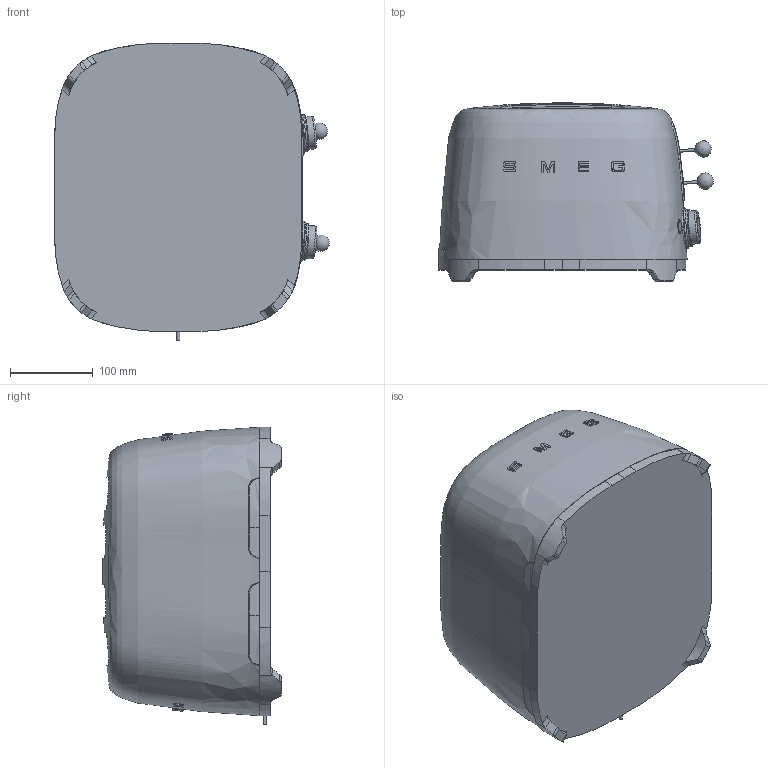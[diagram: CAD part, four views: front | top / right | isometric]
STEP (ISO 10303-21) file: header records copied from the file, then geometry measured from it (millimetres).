
FILE_DESCRIPTION(/* description */ (''),/* implementation_level */ '2;1');
FILE_NAME(/* name */ 'tostapane tsf03.stp',/* time_stamp */ '2019-04-03T11:55:26+02:00',/* author */ (''),/* organization */ (''),/* preprocessor_version */ 'ST-DEVELOPER v16',/* originating_system */ 'SIEMENS PLM Software NX 11.0',/* authorisation */ '');
FILE_SCHEMA (('AUTOMOTIVE_DESIGN { 1 0 10303 214 3 1 1 1 }'));
Length unit declared in the file: millimetre
Products named in the file (1): gobb20B02999dos0
Bounding box: 333.08 x 216.29 x 360.84 mm (x, y, z)
Volume: 11756802.3 mm3; surface area: 1072321.1 mm2
Topology: 31 solids, 31 shells, 534 faces, 1412 edges, 937 vertices
Faces by surface type: plane 237, cylinder 188, extrusion 64, bspline 20, torus 19, cone 4, sphere 2
Full cylindrical faces by diameter (mm): 3 x2, 4 x1, 14 x4, 16 x4, 17.314 x1, 17.578 x1, 17.609 x1, 17.633 x1, 26 x2, 40 x2, 45 x2, 49 x2
Entity records: 20319 total; most frequent: CARTESIAN_POINT 7104, ORIENTED_EDGE 2698, DIRECTION 2635, EDGE_CURVE 1349, AXIS2_PLACEMENT_3D 957, VERTEX_POINT 913, VECTOR 721, LINE 657
